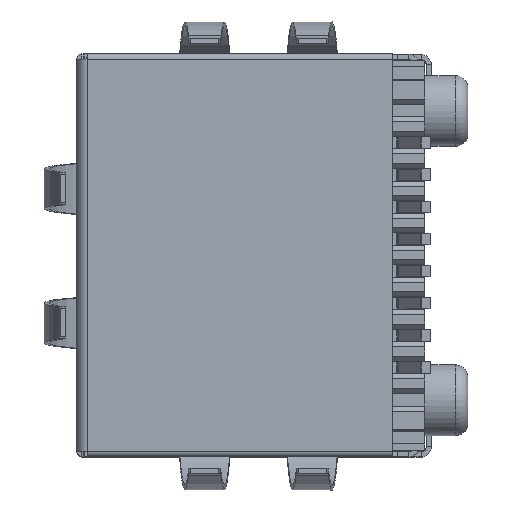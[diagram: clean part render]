
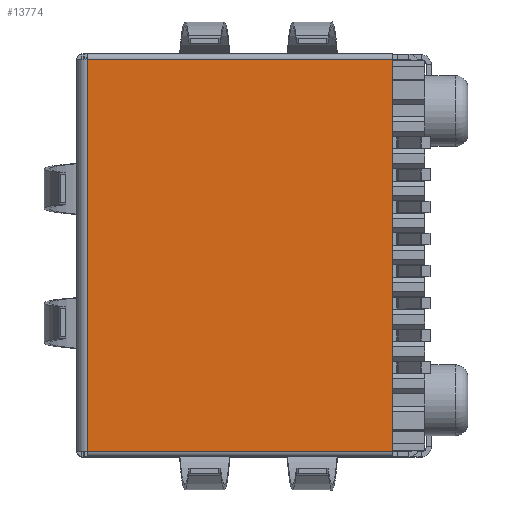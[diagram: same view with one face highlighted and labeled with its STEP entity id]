
A CAD part, top view. The second image highlights one B-rep face of the part: STEP entity #13774.
In plain terms, the highlighted planar face has unit normal (0, 0, 1).
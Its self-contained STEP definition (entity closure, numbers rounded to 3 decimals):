
#4204=DIRECTION('',(0.,-1.,0.));
#4205=VECTOR('',#4204,15.5);
#4206=CARTESIAN_POINT('',(0.4,7.75,10.675));
#4207=LINE('',#4206,#4205);
#4476=DIRECTION('',(1.,0.,0.));
#4477=VECTOR('',#4476,12.05);
#4478=CARTESIAN_POINT('',(0.4,7.75,10.675));
#4479=LINE('',#4478,#4477);
#4613=DIRECTION('',(-1.,0.,0.));
#4614=VECTOR('',#4613,12.05);
#4615=CARTESIAN_POINT('',(12.45,-7.75,10.675));
#4616=LINE('',#4615,#4614);
#4617=DIRECTION('',(0.,1.,0.));
#4618=VECTOR('',#4617,15.5);
#4619=CARTESIAN_POINT('',(12.45,-7.75,10.675));
#4620=LINE('',#4619,#4618);
#5135=CARTESIAN_POINT('',(12.45,-7.75,10.675));
#5137=VERTEX_POINT('',#5135);
#5141=CARTESIAN_POINT('',(0.4,-7.75,10.675));
#5142=VERTEX_POINT('',#5141);
#5453=CARTESIAN_POINT('',(12.45,7.75,10.675));
#5454=VERTEX_POINT('',#5453);
#5455=CARTESIAN_POINT('',(0.4,7.75,10.675));
#5456=VERTEX_POINT('',#5455);
#13763=CARTESIAN_POINT('',(0.,-7.95,10.675));
#13764=DIRECTION('',(0.,0.,1.));
#13765=DIRECTION('',(0.,-1.,0.));
#13766=AXIS2_PLACEMENT_3D('',#13763,#13764,#13765);
#13767=PLANE('',#13766);
#13768=ORIENTED_EDGE('',*,*,#13554,.T.);
#13769=ORIENTED_EDGE('',*,*,#13580,.F.);
#13770=ORIENTED_EDGE('',*,*,#13758,.T.);
#13771=ORIENTED_EDGE('',*,*,#13105,.F.);
#13772=EDGE_LOOP('',(#13768,#13769,#13770,#13771));
#13773=FACE_OUTER_BOUND('',#13772,.F.);
#13774=ADVANCED_FACE('',(#13773),#13767,.T.);
#13105=EDGE_CURVE('',#5456,#5142,#4207,.T.);
#13554=EDGE_CURVE('',#5456,#5454,#4479,.T.);
#13580=EDGE_CURVE('',#5137,#5454,#4620,.T.);
#13758=EDGE_CURVE('',#5137,#5142,#4616,.T.);
